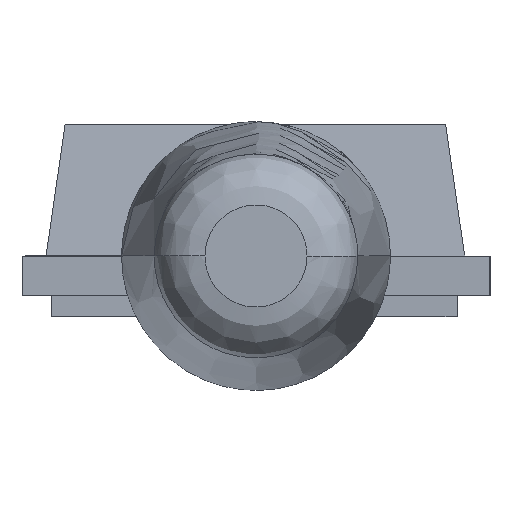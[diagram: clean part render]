
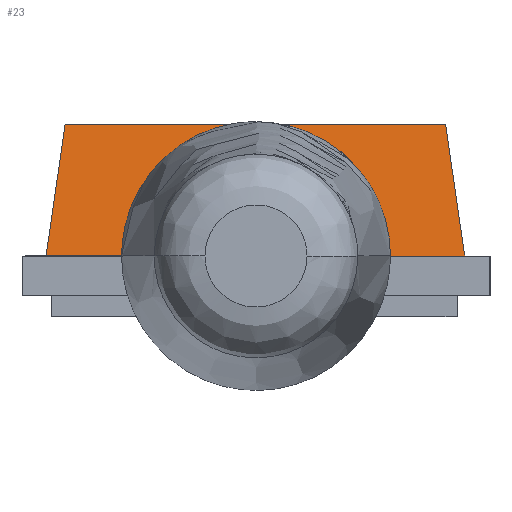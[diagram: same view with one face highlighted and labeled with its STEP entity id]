
A CAD part, left-side view. The second image highlights one B-rep face of the part: STEP entity #23.
In plain terms, the highlighted free-form (B-spline) face has degree [3, 1] with [4, 2] control points.
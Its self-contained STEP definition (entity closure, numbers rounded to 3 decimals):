
#23=ADVANCED_FACE('',(#63),#622,.T.);
#63=FACE_OUTER_BOUND('',#103,.T.);
#103=EDGE_LOOP('',(#154,#155,#156,#157));
#154=ORIENTED_EDGE('',*,*,#344,.T.);
#155=ORIENTED_EDGE('',*,*,#345,.T.);
#156=ORIENTED_EDGE('',*,*,#341,.F.);
#157=ORIENTED_EDGE('',*,*,#342,.T.);
#341=EDGE_CURVE('',#528,#529,#465,.T.);
#342=EDGE_CURVE('',#528,#530,#466,.T.);
#344=EDGE_CURVE('',#530,#531,#468,.T.);
#345=EDGE_CURVE('',#531,#529,#469,.T.);
#465=B_SPLINE_CURVE_WITH_KNOTS('',1,(#984,#985),.UNSPECIFIED.,.F.,.F.,(2,
2),(-5.307,0.),.UNSPECIFIED.);
#466=B_SPLINE_CURVE_WITH_KNOTS('',3,(#986,#987,#988,#989),.UNSPECIFIED.,
 .F.,.F.,(4,4),(15.75,31.5),.UNSPECIFIED.);
#468=B_SPLINE_CURVE_WITH_KNOTS('',1,(#994,#995),.UNSPECIFIED.,.F.,.F.,(2,
2),(-5.307,0.),.UNSPECIFIED.);
#469=B_SPLINE_CURVE_WITH_KNOTS('',3,(#996,#997,#998,#999),.UNSPECIFIED.,
 .F.,.F.,(4,4),(-31.5,-15.75),.UNSPECIFIED.);
#528=VERTEX_POINT('',#916);
#529=VERTEX_POINT('',#917);
#530=VERTEX_POINT('',#918);
#531=VERTEX_POINT('',#919);
#622=B_SPLINE_SURFACE_WITH_KNOTS('',3,1,((#789,#790),(#791,#792),(#793,
#794),(#795,#796)),.UNSPECIFIED.,.F.,.F.,.F.,(4,4),(2,2),(15.75,31.5),(-5.307,
0.),.UNSPECIFIED.);
#789=CARTESIAN_POINT('',(-131.2,41.75,5.2));
#790=CARTESIAN_POINT('',(-131.95,41.,0.));
#791=CARTESIAN_POINT('',(-131.2,46.75,5.2));
#792=CARTESIAN_POINT('',(-131.95,46.5,0.));
#793=CARTESIAN_POINT('',(-131.2,51.75,5.2));
#794=CARTESIAN_POINT('',(-131.95,52.,0.));
#795=CARTESIAN_POINT('',(-131.2,56.75,5.2));
#796=CARTESIAN_POINT('',(-131.95,57.5,0.));
#916=CARTESIAN_POINT('',(-131.2,41.75,5.2));
#917=CARTESIAN_POINT('',(-131.95,41.,0.));
#918=CARTESIAN_POINT('',(-131.2,56.75,5.2));
#919=CARTESIAN_POINT('',(-131.95,57.5,0.));
#984=CARTESIAN_POINT('',(-131.2,41.75,5.2));
#985=CARTESIAN_POINT('',(-131.95,41.,0.));
#986=CARTESIAN_POINT('',(-131.2,41.75,5.2));
#987=CARTESIAN_POINT('',(-131.2,46.75,5.2));
#988=CARTESIAN_POINT('',(-131.2,51.75,5.2));
#989=CARTESIAN_POINT('',(-131.2,56.75,5.2));
#994=CARTESIAN_POINT('',(-131.2,56.75,5.2));
#995=CARTESIAN_POINT('',(-131.95,57.5,0.));
#996=CARTESIAN_POINT('',(-131.95,57.5,0.));
#997=CARTESIAN_POINT('',(-131.95,52.,0.));
#998=CARTESIAN_POINT('',(-131.95,46.5,0.));
#999=CARTESIAN_POINT('',(-131.95,41.,0.));
